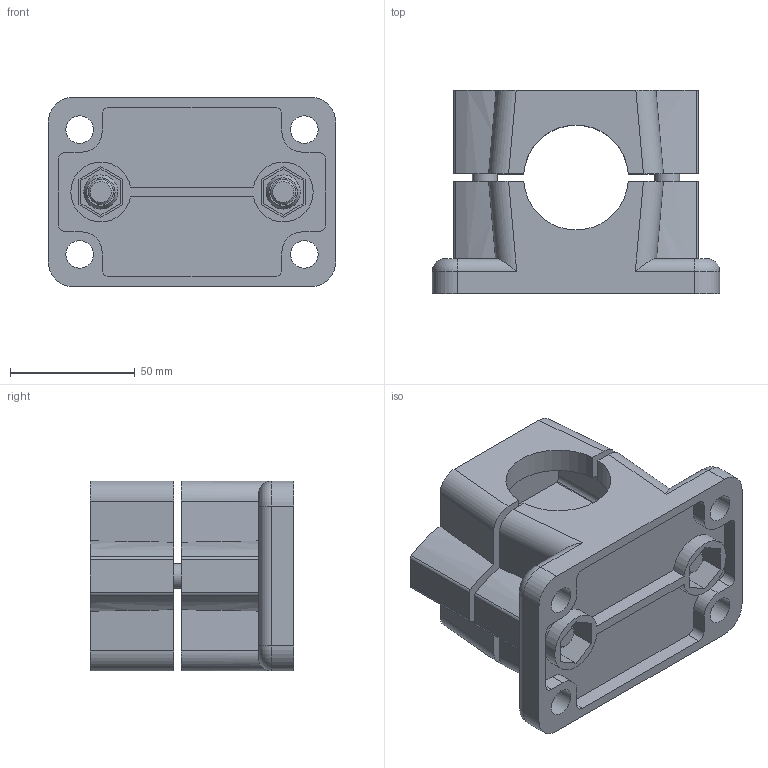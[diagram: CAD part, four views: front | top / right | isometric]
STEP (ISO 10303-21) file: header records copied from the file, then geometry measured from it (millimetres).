
FILE_DESCRIPTION( ( 'STEP AP203' ), '1' );
FILE_NAME( 'C:/Temp/Ganter_Step_05_03_2020/data/3_7/147/Flanged connector clamp GN 147-B42-2-BL.stp', '2020-03-12T14:20:33', ( 'License CC BY-ND 4.0' ), ( 'CADENAS' ), ' ', 'PARTsolutions', ' ' );
FILE_SCHEMA( ( 'CONFIG_CONTROL_DESIGN' ) );
Length unit declared in the file: millimetre
Products named in the file (1): _Flanged connector clamp GN 147-B42-2-BL
Bounding box: 115 x 81.5 x 76 mm (x, y, z)
Volume: 239578.9 mm3; surface area: 81621.7 mm2
Topology: 1 solids, 1 shells, 224 faces, 598 edges, 398 vertices
Faces by surface type: plane 125, cylinder 89, torus 6, cone 4
Full cylindrical faces by diameter (mm): 10 x4, 10.5 x4, 11 x4, 16 x2
Entity records: 6970 total; most frequent: CARTESIAN_POINT 1265, DIRECTION 1208, ORIENTED_EDGE 1136, EDGE_CURVE 568, AXIS2_PLACEMENT_3D 419, VERTEX_POINT 388, LINE 370, VECTOR 370
